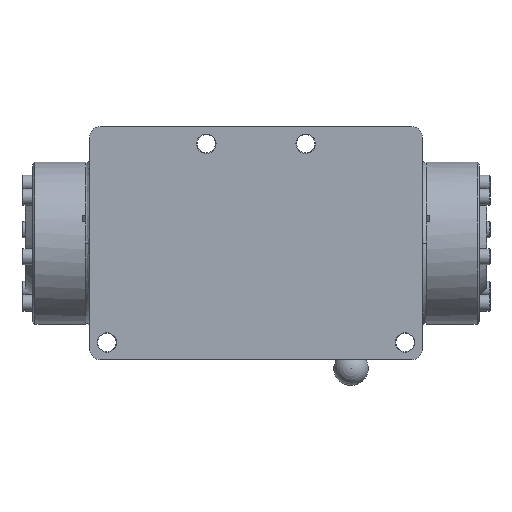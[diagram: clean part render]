
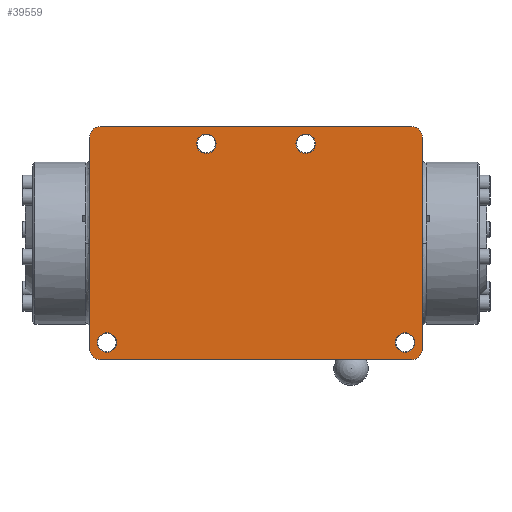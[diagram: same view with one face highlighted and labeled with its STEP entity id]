
A CAD part, front view. The second image highlights one B-rep face of the part: STEP entity #39559.
In plain terms, the highlighted planar face has unit normal (0, -1, 0).
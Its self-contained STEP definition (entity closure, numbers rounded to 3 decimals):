
#2039=LINE('',#61920,#4433);
#2040=LINE('',#61924,#4434);
#2041=LINE('',#61928,#4435);
#2042=LINE('',#61931,#4436);
#4433=VECTOR('',#48735,15.558);
#4434=VECTOR('',#48738,22.86);
#4435=VECTOR('',#48741,15.558);
#4436=VECTOR('',#48744,22.86);
#7815=FACE_BOUND('',#11840,.T.);
#7816=FACE_BOUND('',#11841,.T.);
#7817=FACE_BOUND('',#11842,.T.);
#7818=FACE_BOUND('',#11843,.T.);
#8958=FACE_OUTER_BOUND('',#11839,.T.);
#11839=EDGE_LOOP('',(#27539,#27540,#27541,#27542,#27543,#27544,#27545,#27546));
#11840=EDGE_LOOP('',(#27547));
#11841=EDGE_LOOP('',(#27548));
#11842=EDGE_LOOP('',(#27549));
#11843=EDGE_LOOP('',(#27550));
#14582=CIRCLE('',#42665,0.714);
#14584=CIRCLE('',#42668,0.714);
#14586=CIRCLE('',#42671,0.714);
#14588=CIRCLE('',#42674,0.714);
#14597=CIRCLE('',#42698,0.794);
#14598=CIRCLE('',#42699,0.794);
#14599=CIRCLE('',#42700,0.794);
#14600=CIRCLE('',#42701,0.794);
#16908=VERTEX_POINT('',#61868);
#16910=VERTEX_POINT('',#61873);
#16912=VERTEX_POINT('',#61878);
#16914=VERTEX_POINT('',#61883);
#16923=VERTEX_POINT('',#61916);
#16924=VERTEX_POINT('',#61917);
#16925=VERTEX_POINT('',#61919);
#16926=VERTEX_POINT('',#61921);
#16927=VERTEX_POINT('',#61923);
#16928=VERTEX_POINT('',#61925);
#16929=VERTEX_POINT('',#61927);
#16930=VERTEX_POINT('',#61929);
#20937=EDGE_CURVE('',#16908,#16908,#14582,.T.);
#20939=EDGE_CURVE('',#16910,#16910,#14584,.T.);
#20941=EDGE_CURVE('',#16912,#16912,#14586,.T.);
#20943=EDGE_CURVE('',#16914,#16914,#14588,.T.);
#20952=EDGE_CURVE('',#16923,#16924,#14597,.T.);
#20953=EDGE_CURVE('',#16924,#16925,#2039,.T.);
#20954=EDGE_CURVE('',#16925,#16926,#14598,.T.);
#20955=EDGE_CURVE('',#16926,#16927,#2040,.T.);
#20956=EDGE_CURVE('',#16927,#16928,#14599,.T.);
#20957=EDGE_CURVE('',#16928,#16929,#2041,.T.);
#20958=EDGE_CURVE('',#16929,#16930,#14600,.T.);
#20959=EDGE_CURVE('',#16930,#16923,#2042,.T.);
#27539=ORIENTED_EDGE('',*,*,#20952,.T.);
#27540=ORIENTED_EDGE('',*,*,#20953,.T.);
#27541=ORIENTED_EDGE('',*,*,#20954,.T.);
#27542=ORIENTED_EDGE('',*,*,#20955,.T.);
#27543=ORIENTED_EDGE('',*,*,#20956,.T.);
#27544=ORIENTED_EDGE('',*,*,#20957,.T.);
#27545=ORIENTED_EDGE('',*,*,#20958,.T.);
#27546=ORIENTED_EDGE('',*,*,#20959,.T.);
#27547=ORIENTED_EDGE('',*,*,#20937,.T.);
#27548=ORIENTED_EDGE('',*,*,#20939,.T.);
#27549=ORIENTED_EDGE('',*,*,#20941,.T.);
#27550=ORIENTED_EDGE('',*,*,#20943,.T.);
#35799=PLANE('',#42697);
#39559=ADVANCED_FACE('',(#8958,#7815,#7816,#7817,#7818),#35799,.T.);
#42665=AXIS2_PLACEMENT_3D('',#61869,#48667,#48668);
#42668=AXIS2_PLACEMENT_3D('',#61874,#48673,#48674);
#42671=AXIS2_PLACEMENT_3D('',#61879,#48679,#48680);
#42674=AXIS2_PLACEMENT_3D('',#61884,#48685,#48686);
#42697=AXIS2_PLACEMENT_3D('',#61915,#48731,#48732);
#42698=AXIS2_PLACEMENT_3D('',#61918,#48733,#48734);
#42699=AXIS2_PLACEMENT_3D('',#61922,#48736,#48737);
#42700=AXIS2_PLACEMENT_3D('',#61926,#48739,#48740);
#42701=AXIS2_PLACEMENT_3D('',#61930,#48742,#48743);
#48667=DIRECTION('center_axis',(0.,1.,0.));
#48668=DIRECTION('ref_axis',(1.,0.,0.));
#48673=DIRECTION('center_axis',(0.,1.,0.));
#48674=DIRECTION('ref_axis',(1.,0.,0.));
#48679=DIRECTION('center_axis',(0.,1.,0.));
#48680=DIRECTION('ref_axis',(1.,0.,0.));
#48685=DIRECTION('center_axis',(0.,1.,0.));
#48686=DIRECTION('ref_axis',(1.,0.,0.));
#48731=DIRECTION('center_axis',(0.,-1.,0.));
#48732=DIRECTION('ref_axis',(1.,0.,0.));
#48733=DIRECTION('center_axis',(0.,-1.,0.));
#48734=DIRECTION('ref_axis',(0.707,0.,-0.707));
#48735=DIRECTION('',(0.,0.,1.));
#48736=DIRECTION('center_axis',(0.,-1.,0.));
#48737=DIRECTION('ref_axis',(0.707,0.,0.707));
#48738=DIRECTION('',(-1.,0.,0.));
#48739=DIRECTION('center_axis',(0.,-1.,0.));
#48740=DIRECTION('ref_axis',(-0.707,0.,0.707));
#48741=DIRECTION('',(0.,0.,-1.));
#48742=DIRECTION('center_axis',(0.,-1.,0.));
#48743=DIRECTION('ref_axis',(-0.707,0.,-0.707));
#48744=DIRECTION('',(1.,0.,0.));
#61868=CARTESIAN_POINT('',(4.364,-6.35,7.303));
#61869=CARTESIAN_POINT('Origin',(3.65,-6.35,7.303));
#61873=CARTESIAN_POINT('',(-10.238,-6.35,-7.303));
#61874=CARTESIAN_POINT('Origin',(-10.952,-6.35,-7.303));
#61878=CARTESIAN_POINT('',(11.667,-6.35,-7.303));
#61879=CARTESIAN_POINT('Origin',(10.952,-6.35,-7.303));
#61883=CARTESIAN_POINT('',(-2.936,-6.35,7.303));
#61884=CARTESIAN_POINT('Origin',(-3.65,-6.35,7.303));
#61915=CARTESIAN_POINT('Origin',(-12.51,-6.35,0.));
#61916=CARTESIAN_POINT('',(11.43,-6.35,-8.572));
#61917=CARTESIAN_POINT('',(12.224,-6.35,-7.779));
#61918=CARTESIAN_POINT('Origin',(11.43,-6.35,-7.779));
#61919=CARTESIAN_POINT('',(12.224,-6.35,7.779));
#61920=CARTESIAN_POINT('',(12.224,-6.35,-4.286));
#61921=CARTESIAN_POINT('',(11.43,-6.35,8.573));
#61922=CARTESIAN_POINT('Origin',(11.43,-6.35,7.779));
#61923=CARTESIAN_POINT('',(-11.43,-6.35,8.573));
#61924=CARTESIAN_POINT('',(-0.143,-6.35,8.573));
#61925=CARTESIAN_POINT('',(-12.224,-6.35,7.779));
#61926=CARTESIAN_POINT('Origin',(-11.43,-6.35,7.779));
#61927=CARTESIAN_POINT('',(-12.224,-6.35,-7.779));
#61928=CARTESIAN_POINT('',(-12.224,-6.35,4.286));
#61929=CARTESIAN_POINT('',(-11.43,-6.35,-8.573));
#61930=CARTESIAN_POINT('Origin',(-11.43,-6.35,-7.779));
#61931=CARTESIAN_POINT('',(-12.367,-6.35,-8.573));
